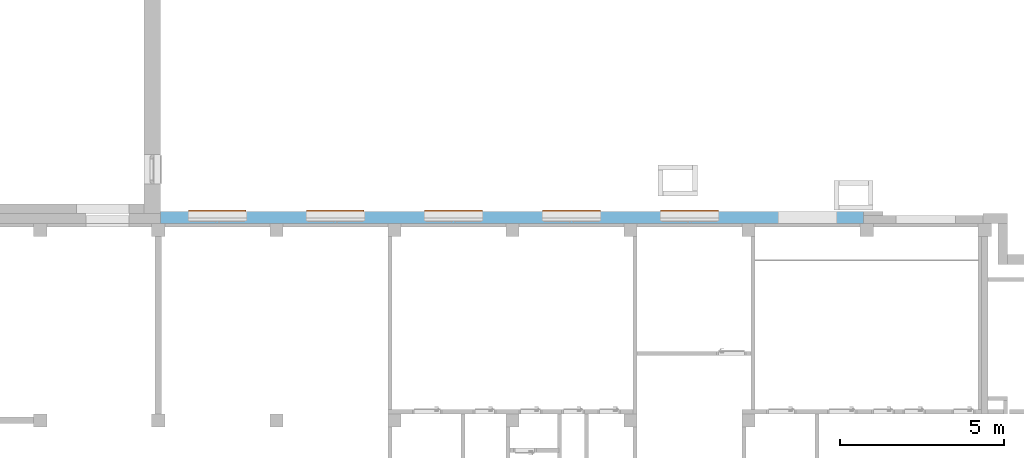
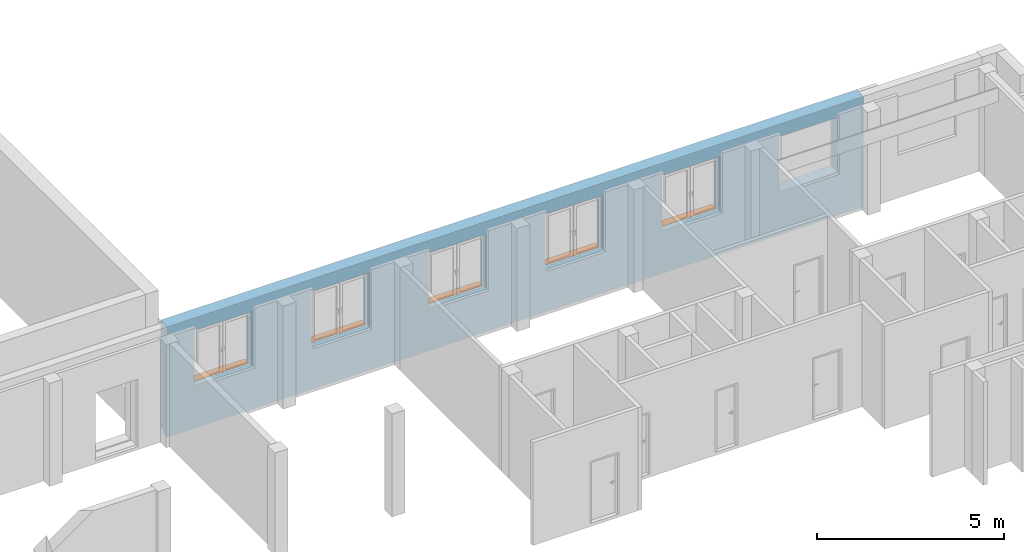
# One storey, part 28 of 37: 5 proxies, 6 openings, plus 1 element that does not belong to this part.
"""IFC4 building model written with IfcOpenShell, lengths in metres."""

from ifc_helpers import new_model, entity, si_unit, converted_unit, derived_unit, frame, frame_2d, origin, origin_with_axes, place, context, subcontext, project, spatial, polyline, rectangle, outline, extrude, clip, bounded_halfspace, faceted_brep, source, transform, mapped, material, layer, layer_set, layer_usage, element, fill, save


model = new_model("IFC4")

# Units and contexts
model_context = context("Model", 3, precision=1e-05, world=origin())
body_context = subcontext(model_context, "Body", "Model", "MODEL_VIEW")
ifc_project = project(units=[si_unit("LENGTHUNIT", "METRE"), si_unit("AREAUNIT", "SQUARE_METRE"), si_unit("VOLUMEUNIT", "CUBIC_METRE"), si_unit("MASSUNIT", "GRAM", prefix="KILO"), converted_unit("PLANEANGLEUNIT", "DEGREE", entity("IfcPlaneAngleMeasure", 0.0174532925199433), si_unit("PLANEANGLEUNIT", "RADIAN"), dimensions=[0, 0, 0, 0, 0, 0, 0]), derived_unit("THERMALTRANSMITTANCEUNIT", [(si_unit("POWERUNIT", "WATT"), 1), (si_unit("THERMODYNAMICTEMPERATUREUNIT", "KELVIN"), -1), (si_unit("LENGTHUNIT", "METRE"), -2)]), derived_unit("VOLUMETRICFLOWRATEUNIT", [(si_unit("LENGTHUNIT", "METRE"), 3), (converted_unit("TIMEUNIT", "hour", entity("IfcTimeMeasure", 3600.0), si_unit("TIMEUNIT", "SECOND"), dimensions=[0, 0, 1, 0, 0, 0, 0]), -1), (si_unit("LENGTHUNIT", "METRE"), -1)])], contexts=[model_context])

# Site, building, storey
site_placement = place(None, origin())
site = spatial("IfcSite", under=ifc_project, at=site_placement, Name="3. ASŘ", CompositionType="ELEMENT")
building_placement = place(site_placement, origin())
building = spatial("IfcBuilding", under=site, at=building_placement, Name="Pavilon B", CompositionType="ELEMENT")
storey_placement = place(building_placement, origin())
storey = spatial("IfcBuildingStorey", under=building, at=storey_placement, Name="Půdorys 1.NP", CompositionType="ELEMENT", Elevation=0.0)

# Wall, openings, proxies
ifc_material_1 = material(Name="ZELEZOBETONOVÁ KCE")
ifc_layer_1 = layer(ifc_material_1, 0.249999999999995)
ifc_material_2 = material(Name="MINERÁLNÍ VATA")
ifc_layer_2 = layer(ifc_material_2, 0.119999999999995)
ifc_layer_set = layer_set([ifc_layer_1, ifc_layer_2])
ifc_layer_usage = layer_usage(ifc_layer_set, "AXIS2", "POSITIVE", 0.0)
wall_placement = place(storey_placement, frame((6.67000000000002, -15.6, -0.1), z_axis=(0.0, 0.0, 1.0), x_axis=(1.0, -8.48805134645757e-17, 0.0)))
wall = element("IfcWall", 1, at=wall_placement, inside=storey, material=ifc_layer_usage, Name="ZELEZOBETONOVÁ KCE", context=body_context, shape_type="Clipping", body=[
    clip(extrude(rectangle(XDim=21.43, YDim=0.370000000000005, at=frame_2d((10.715, 0.185000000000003), x_axis=(1.0, 0.0))), origin_with_axes(), (0.0, 0.0, 1.0), 3.6), bounded_halfspace(frame((10.715, 0.310000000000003, 0.1), z_axis=(0.0, 0.0, 1.0), x_axis=(8.48805134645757e-17, -1.0, 0.0)), True, origin_with_axes(), polyline([(-3.1405789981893e-17, 0.37), (-2.12201283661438e-17, 0.249999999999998), (21.43, 0.250000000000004), (21.43, 0.370000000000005), (-3.1405789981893e-17, 0.37)]))),
])
opening_1_placement = place(wall_placement, frame((2.63, 0.370000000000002, 1.4), z_axis=(0.0, -1.0, 0.0), x_axis=(0.0, 0.0, 1.0)))
opening_1 = element("IfcOpeningElement", 2, at=opening_1_placement, cuts=wall, Name="Okenní otvor", ObjectType="Opening", context=body_context, shape_type="SweptSolid", body=[
    extrude(outline(polyline([(0.0, 1.8), (1.8, 1.8), (1.8, 0.0), (0.0, 0.0), (0.0, 1.8)])), origin_with_axes(), (0.0, 0.0, 1.0), 0.12),
    extrude(outline(polyline([(0.0, 1.8), (1.8, 1.8), (1.8, 0.0), (0.0, 0.0), (0.0, 1.8)])), frame((0.0, 0.0, 0.12), z_axis=(0.0, 0.0, 1.0), x_axis=(1.0, 0.0, 0.0)), (0.0, 0.0, 1.0), 0.25),
])
opening_2_placement = place(wall_placement, frame((6.23, 0.370000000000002, 1.4), z_axis=(0.0, -1.0, 0.0), x_axis=(0.0, 0.0, 1.0)))
opening_2 = element("IfcOpeningElement", 3, at=opening_2_placement, cuts=wall, Name="Okenní otvor", ObjectType="Opening", context=body_context, shape_type="SweptSolid", body=[
    extrude(outline(polyline([(0.0, 1.8), (1.8, 1.8), (1.8, 0.0), (0.0, 0.0), (0.0, 1.8)])), origin_with_axes(), (0.0, 0.0, 1.0), 0.12),
    extrude(outline(polyline([(0.0, 1.8), (1.8, 1.8), (1.8, 0.0), (0.0, 0.0), (0.0, 1.8)])), frame((0.0, 0.0, 0.12), z_axis=(0.0, 0.0, 1.0), x_axis=(1.0, 0.0, 0.0)), (0.0, 0.0, 1.0), 0.25),
])
opening_3_placement = place(wall_placement, frame((9.83, 0.370000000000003, 1.4), z_axis=(0.0, -1.0, 0.0), x_axis=(0.0, 0.0, 1.0)))
opening_3 = element("IfcOpeningElement", 4, at=opening_3_placement, cuts=wall, Name="Okenní otvor", ObjectType="Opening", context=body_context, shape_type="SweptSolid", body=[
    extrude(outline(polyline([(0.0, 1.8), (1.8, 1.8), (1.8, 0.0), (0.0, 0.0), (0.0, 1.8)])), origin_with_axes(), (0.0, 0.0, 1.0), 0.12),
    extrude(outline(polyline([(0.0, 1.8), (1.8, 1.8), (1.8, 0.0), (0.0, 0.0), (0.0, 1.8)])), frame((0.0, 0.0, 0.12), z_axis=(0.0, 0.0, 1.0), x_axis=(1.0, 0.0, 0.0)), (0.0, 0.0, 1.0), 0.25),
])
opening_4_placement = place(wall_placement, frame((13.43, 0.370000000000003, 1.4), z_axis=(0.0, -1.0, 0.0), x_axis=(0.0, 0.0, 1.0)))
opening_4 = element("IfcOpeningElement", 5, at=opening_4_placement, cuts=wall, Name="Okenní otvor", ObjectType="Opening", context=body_context, shape_type="SweptSolid", body=[
    extrude(outline(polyline([(0.0, 1.8), (1.8, 1.8), (1.8, 0.0), (0.0, 0.0), (0.0, 1.8)])), origin_with_axes(), (0.0, 0.0, 1.0), 0.12),
    extrude(outline(polyline([(0.0, 1.8), (1.8, 1.8), (1.8, 0.0), (0.0, 0.0), (0.0, 1.8)])), frame((0.0, 0.0, 0.12), z_axis=(0.0, 0.0, 1.0), x_axis=(1.0, 0.0, 0.0)), (0.0, 0.0, 1.0), 0.25),
])
opening_5_placement = place(wall_placement, frame((17.03, 0.370000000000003, 1.4), z_axis=(0.0, -1.0, 0.0), x_axis=(0.0, 0.0, 1.0)))
opening_5 = element("IfcOpeningElement", 6, at=opening_5_placement, cuts=wall, Name="Okenní otvor", ObjectType="Opening", context=body_context, shape_type="SweptSolid", body=[
    extrude(outline(polyline([(0.0, 1.8), (1.8, 1.8), (1.8, 0.0), (0.0, 0.0), (0.0, 1.8)])), origin_with_axes(), (0.0, 0.0, 1.0), 0.12),
    extrude(outline(polyline([(0.0, 1.8), (1.8, 1.8), (1.8, 0.0), (0.0, 0.0), (0.0, 1.8)])), frame((0.0, 0.0, 0.12), z_axis=(0.0, 0.0, 1.0), x_axis=(1.0, 0.0, 0.0)), (0.0, 0.0, 1.0), 0.25),
])
opening_6_placement = place(wall_placement, frame((20.63, 0.250000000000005, 1.4), z_axis=(0.0, -1.0, 0.0), x_axis=(0.0, 0.0, 1.0)))
element("IfcOpeningElement", 7, at=opening_6_placement, cuts=wall, Name="Okenní otvor", ObjectType="Opening", context=body_context, shape_type="SweptSolid", body=[
    extrude(outline(polyline([(0.0, 1.8), (1.8, 1.8), (1.8, 0.0), (0.0, 0.0), (0.0, 1.8)])), origin_with_axes(), (0.0, 0.0, 1.0), 0.250000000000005),
    extrude(outline(polyline([(0.0, 1.8), (1.8, 1.8), (1.8, 0.0), (0.0, 0.0), (0.0, 1.8)])), frame((0.0, 0.0, -0.12), z_axis=(0.0, 0.0, 1.0), x_axis=(1.0, 0.0, 0.0)), (0.0, 0.0, 1.0), 0.12),
])
ifc_material_3 = material(Name="PLECH")
shared_shape_1 = source(origin_with_axes(), body_context, "Body", "Brep", [
    faceted_brep([(0.04, 0.0, 0.0), (0.04, 0.2, 0.0), (0.04, 0.2, 0.005), (0.04, 0.0, 0.005), (1.76, 0.0, 0.0), (1.76, 0.0, 0.005), (1.76, 0.2, 0.005), (1.76, 0.2, 0.0), (0.02, 0.0, 0.0), (0.02, -0.035, 0.0), (1.78, -0.035, 0.0), (1.78, 0.0, 0.0), (1.78, 0.0, 0.005), (1.78, -0.04, 0.005), (0.02, -0.04, 0.005), (0.02, 0.0, 0.005), (0.02, -0.04, -0.025), (0.02, -0.035, -0.025), (1.78, -0.035, -0.025), (1.78, -0.04, -0.025)], [[[0, 1, 2, 3]], [[4, 5, 6, 7]], [[1, 0, 8, 9, 10, 11, 4, 7]], [[2, 1, 7, 6]], [[3, 2, 6, 5, 12, 13, 14, 15]], [[8, 15, 14, 16, 17, 9]], [[11, 10, 18, 19, 13, 12]], [[15, 8, 0, 3]], [[5, 4, 11, 12]], [[16, 14, 13, 19]], [[17, 16, 19, 18]], [[9, 17, 18, 10]]], orient=[[False], [False], [False], [False], [False], [False], [False], [False], [False], [False], [False], [False]]),
    faceted_brep([(0.02, 0.0, 0.0), (0.02, 0.2, 0.0), (0.02, 0.2, 0.005), (0.02, 0.0, 0.005), (0.04, 0.0, 0.0), (0.04, 0.0, 0.005), (0.04, 0.2, 0.005), (0.04, 0.2, 0.0)], [[[0, 1, 2, 3]], [[4, 5, 6, 7]], [[1, 0, 4, 7]], [[2, 1, 7, 6]], [[3, 2, 6, 5]], [[0, 3, 5, 4]]], orient=[[False], [False], [False], [False], [False], [False]]),
    faceted_brep([(1.76, 0.0, 0.0), (1.76, 0.2, 0.0), (1.76, 0.2, 0.005), (1.76, 0.0, 0.005), (1.78, 0.0, 0.0), (1.78, 0.0, 0.005), (1.78, 0.2, 0.005), (1.78, 0.2, 0.0)], [[[0, 1, 2, 3]], [[4, 5, 6, 7]], [[1, 0, 4, 7]], [[2, 1, 7, 6]], [[3, 2, 6, 5]], [[0, 3, 5, 4]]], orient=[[False], [False], [False], [False], [False], [False]]),
])
proxy_1_placement = place(opening_1_placement, frame((0.0, 0.0, 0.0), z_axis=(1.0, 0.0, 0.0), x_axis=(0.0, 1.0, 0.0)))
proxy_1 = element("IfcBuildingElementProxy", 8, at=proxy_1_placement, inside=storey, material=ifc_material_3, Name="Parapet vnější", context=body_context, shape_type="MappedRepresentation", body=[
    mapped(shared_shape_1, transform((0.0, 0.0, 0.0), x_axis=(1.0, 0.0, 0.0), y_axis=(0.0, 1.0, 0.0), z_axis=(0.0, 0.0, 1.0), scale=1.0)),
])
fill(opening_1, proxy_1)
ifc_material_4 = material(Name="PLECH")
shared_shape_2 = source(origin_with_axes(), body_context, "Body", "Brep", [
    faceted_brep([(0.04, 0.0, 0.0), (0.04, 0.2, 0.0), (0.04, 0.2, 0.005), (0.04, 0.0, 0.005), (1.76, 0.0, 0.0), (1.76, 0.0, 0.005), (1.76, 0.2, 0.005), (1.76, 0.2, 0.0), (0.02, 0.0, 0.0), (0.02, -0.035, 0.0), (1.78, -0.035, 0.0), (1.78, 0.0, 0.0), (1.78, 0.0, 0.005), (1.78, -0.04, 0.005), (0.02, -0.04, 0.005), (0.02, 0.0, 0.005), (0.02, -0.04, -0.025), (0.02, -0.035, -0.025), (1.78, -0.035, -0.025), (1.78, -0.04, -0.025)], [[[0, 1, 2, 3]], [[4, 5, 6, 7]], [[1, 0, 8, 9, 10, 11, 4, 7]], [[2, 1, 7, 6]], [[3, 2, 6, 5, 12, 13, 14, 15]], [[8, 15, 14, 16, 17, 9]], [[11, 10, 18, 19, 13, 12]], [[15, 8, 0, 3]], [[5, 4, 11, 12]], [[16, 14, 13, 19]], [[17, 16, 19, 18]], [[9, 17, 18, 10]]], orient=[[False], [False], [False], [False], [False], [False], [False], [False], [False], [False], [False], [False]]),
    faceted_brep([(0.02, 0.0, 0.0), (0.02, 0.2, 0.0), (0.02, 0.2, 0.005), (0.02, 0.0, 0.005), (0.04, 0.0, 0.0), (0.04, 0.0, 0.005), (0.04, 0.2, 0.005), (0.04, 0.2, 0.0)], [[[0, 1, 2, 3]], [[4, 5, 6, 7]], [[1, 0, 4, 7]], [[2, 1, 7, 6]], [[3, 2, 6, 5]], [[0, 3, 5, 4]]], orient=[[False], [False], [False], [False], [False], [False]]),
    faceted_brep([(1.76, 0.0, 0.0), (1.76, 0.2, 0.0), (1.76, 0.2, 0.005), (1.76, 0.0, 0.005), (1.78, 0.0, 0.0), (1.78, 0.0, 0.005), (1.78, 0.2, 0.005), (1.78, 0.2, 0.0)], [[[0, 1, 2, 3]], [[4, 5, 6, 7]], [[1, 0, 4, 7]], [[2, 1, 7, 6]], [[3, 2, 6, 5]], [[0, 3, 5, 4]]], orient=[[False], [False], [False], [False], [False], [False]]),
])
proxy_2_placement = place(opening_2_placement, frame((0.0, 0.0, 0.0), z_axis=(1.0, 0.0, 0.0), x_axis=(0.0, 1.0, 0.0)))
proxy_2 = element("IfcBuildingElementProxy", 9, at=proxy_2_placement, inside=storey, material=ifc_material_4, Name="Parapet vnější", context=body_context, shape_type="MappedRepresentation", body=[
    mapped(shared_shape_2, transform((0.0, 0.0, 0.0), x_axis=(1.0, 0.0, 0.0), y_axis=(0.0, 1.0, 0.0), z_axis=(0.0, 0.0, 1.0), scale=1.0)),
])
fill(opening_2, proxy_2)
ifc_material_5 = material(Name="PLECH")
shared_shape_3 = source(origin_with_axes(), body_context, "Body", "Brep", [
    faceted_brep([(0.04, 0.0, 0.0), (0.04, 0.2, 0.0), (0.04, 0.2, 0.005), (0.04, 0.0, 0.005), (1.76, 0.0, 0.0), (1.76, 0.0, 0.005), (1.76, 0.2, 0.005), (1.76, 0.2, 0.0), (0.02, 0.0, 0.0), (0.02, -0.035, 0.0), (1.78, -0.035, 0.0), (1.78, 0.0, 0.0), (1.78, 0.0, 0.005), (1.78, -0.04, 0.005), (0.02, -0.04, 0.005), (0.02, 0.0, 0.005), (0.02, -0.04, -0.025), (0.02, -0.035, -0.025), (1.78, -0.035, -0.025), (1.78, -0.04, -0.025)], [[[0, 1, 2, 3]], [[4, 5, 6, 7]], [[1, 0, 8, 9, 10, 11, 4, 7]], [[2, 1, 7, 6]], [[3, 2, 6, 5, 12, 13, 14, 15]], [[8, 15, 14, 16, 17, 9]], [[11, 10, 18, 19, 13, 12]], [[15, 8, 0, 3]], [[5, 4, 11, 12]], [[16, 14, 13, 19]], [[17, 16, 19, 18]], [[9, 17, 18, 10]]], orient=[[False], [False], [False], [False], [False], [False], [False], [False], [False], [False], [False], [False]]),
    faceted_brep([(0.02, 0.0, 0.0), (0.02, 0.2, 0.0), (0.02, 0.2, 0.005), (0.02, 0.0, 0.005), (0.04, 0.0, 0.0), (0.04, 0.0, 0.005), (0.04, 0.2, 0.005), (0.04, 0.2, 0.0)], [[[0, 1, 2, 3]], [[4, 5, 6, 7]], [[1, 0, 4, 7]], [[2, 1, 7, 6]], [[3, 2, 6, 5]], [[0, 3, 5, 4]]], orient=[[False], [False], [False], [False], [False], [False]]),
    faceted_brep([(1.76, 0.0, 0.0), (1.76, 0.2, 0.0), (1.76, 0.2, 0.005), (1.76, 0.0, 0.005), (1.78, 0.0, 0.0), (1.78, 0.0, 0.005), (1.78, 0.2, 0.005), (1.78, 0.2, 0.0)], [[[0, 1, 2, 3]], [[4, 5, 6, 7]], [[1, 0, 4, 7]], [[2, 1, 7, 6]], [[3, 2, 6, 5]], [[0, 3, 5, 4]]], orient=[[False], [False], [False], [False], [False], [False]]),
])
proxy_3_placement = place(opening_3_placement, frame((0.0, 0.0, 0.0), z_axis=(1.0, 0.0, 0.0), x_axis=(0.0, 1.0, 0.0)))
proxy_3 = element("IfcBuildingElementProxy", 10, at=proxy_3_placement, inside=storey, material=ifc_material_5, Name="Parapet vnější", context=body_context, shape_type="MappedRepresentation", body=[
    mapped(shared_shape_3, transform((0.0, 0.0, 0.0), x_axis=(1.0, 0.0, 0.0), y_axis=(0.0, 1.0, 0.0), z_axis=(0.0, 0.0, 1.0), scale=1.0)),
])
fill(opening_3, proxy_3)
ifc_material_6 = material(Name="PLECH")
shared_shape_4 = source(origin_with_axes(), body_context, "Body", "Brep", [
    faceted_brep([(0.04, 0.0, 0.0), (0.04, 0.2, 0.0), (0.04, 0.2, 0.005), (0.04, 0.0, 0.005), (1.76, 0.0, 0.0), (1.76, 0.0, 0.005), (1.76, 0.2, 0.005), (1.76, 0.2, 0.0), (0.02, 0.0, 0.0), (0.02, -0.035, 0.0), (1.78, -0.035, 0.0), (1.78, 0.0, 0.0), (1.78, 0.0, 0.005), (1.78, -0.04, 0.005), (0.02, -0.04, 0.005), (0.02, 0.0, 0.005), (0.02, -0.04, -0.025), (0.02, -0.035, -0.025), (1.78, -0.035, -0.025), (1.78, -0.04, -0.025)], [[[0, 1, 2, 3]], [[4, 5, 6, 7]], [[1, 0, 8, 9, 10, 11, 4, 7]], [[2, 1, 7, 6]], [[3, 2, 6, 5, 12, 13, 14, 15]], [[8, 15, 14, 16, 17, 9]], [[11, 10, 18, 19, 13, 12]], [[15, 8, 0, 3]], [[5, 4, 11, 12]], [[16, 14, 13, 19]], [[17, 16, 19, 18]], [[9, 17, 18, 10]]], orient=[[False], [False], [False], [False], [False], [False], [False], [False], [False], [False], [False], [False]]),
    faceted_brep([(0.02, 0.0, 0.0), (0.02, 0.2, 0.0), (0.02, 0.2, 0.005), (0.02, 0.0, 0.005), (0.04, 0.0, 0.0), (0.04, 0.0, 0.005), (0.04, 0.2, 0.005), (0.04, 0.2, 0.0)], [[[0, 1, 2, 3]], [[4, 5, 6, 7]], [[1, 0, 4, 7]], [[2, 1, 7, 6]], [[3, 2, 6, 5]], [[0, 3, 5, 4]]], orient=[[False], [False], [False], [False], [False], [False]]),
    faceted_brep([(1.76, 0.0, 0.0), (1.76, 0.2, 0.0), (1.76, 0.2, 0.005), (1.76, 0.0, 0.005), (1.78, 0.0, 0.0), (1.78, 0.0, 0.005), (1.78, 0.2, 0.005), (1.78, 0.2, 0.0)], [[[0, 1, 2, 3]], [[4, 5, 6, 7]], [[1, 0, 4, 7]], [[2, 1, 7, 6]], [[3, 2, 6, 5]], [[0, 3, 5, 4]]], orient=[[False], [False], [False], [False], [False], [False]]),
])
proxy_4_placement = place(opening_4_placement, frame((0.0, 0.0, 0.0), z_axis=(1.0, 0.0, 0.0), x_axis=(0.0, 1.0, 0.0)))
proxy_4 = element("IfcBuildingElementProxy", 11, at=proxy_4_placement, inside=storey, material=ifc_material_6, Name="Parapet vnější", context=body_context, shape_type="MappedRepresentation", body=[
    mapped(shared_shape_4, transform((0.0, 0.0, 0.0), x_axis=(1.0, 0.0, 0.0), y_axis=(0.0, 1.0, 0.0), z_axis=(0.0, 0.0, 1.0), scale=1.0)),
])
fill(opening_4, proxy_4)
ifc_material_7 = material(Name="PLECH")
shared_shape_5 = source(origin_with_axes(), body_context, "Body", "Brep", [
    faceted_brep([(0.0399999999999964, 0.0, 0.0), (0.0399999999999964, 0.2, 0.0), (0.0399999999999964, 0.2, 0.005), (0.0399999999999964, 0.0, 0.005), (1.76, 0.0, 0.0), (1.76, 0.0, 0.005), (1.76, 0.2, 0.005), (1.76, 0.2, 0.0), (0.0199999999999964, 0.0, 0.0), (0.0199999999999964, -0.035, 0.0), (1.78, -0.035, 0.0), (1.78, 0.0, 0.0), (1.78, 0.0, 0.005), (1.78, -0.04, 0.005), (0.0199999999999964, -0.04, 0.005), (0.0199999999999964, 0.0, 0.005), (0.0199999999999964, -0.04, -0.025), (0.0199999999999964, -0.035, -0.025), (1.78, -0.035, -0.025), (1.78, -0.04, -0.025)], [[[0, 1, 2, 3]], [[4, 5, 6, 7]], [[1, 0, 8, 9, 10, 11, 4, 7]], [[2, 1, 7, 6]], [[3, 2, 6, 5, 12, 13, 14, 15]], [[8, 15, 14, 16, 17, 9]], [[11, 10, 18, 19, 13, 12]], [[15, 8, 0, 3]], [[5, 4, 11, 12]], [[16, 14, 13, 19]], [[17, 16, 19, 18]], [[9, 17, 18, 10]]], orient=[[False], [False], [False], [False], [False], [False], [False], [False], [False], [False], [False], [False]]),
    faceted_brep([(0.0199999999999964, 0.0, 0.0), (0.0199999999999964, 0.2, 0.0), (0.0199999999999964, 0.2, 0.005), (0.0199999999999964, 0.0, 0.005), (0.0399999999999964, 0.0, 0.0), (0.0399999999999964, 0.0, 0.005), (0.0399999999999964, 0.2, 0.005), (0.0399999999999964, 0.2, 0.0)], [[[0, 1, 2, 3]], [[4, 5, 6, 7]], [[1, 0, 4, 7]], [[2, 1, 7, 6]], [[3, 2, 6, 5]], [[0, 3, 5, 4]]], orient=[[False], [False], [False], [False], [False], [False]]),
    faceted_brep([(1.76, 0.0, 0.0), (1.76, 0.2, 0.0), (1.76, 0.2, 0.005), (1.76, 0.0, 0.005), (1.78, 0.0, 0.0), (1.78, 0.0, 0.005), (1.78, 0.2, 0.005), (1.78, 0.2, 0.0)], [[[0, 1, 2, 3]], [[4, 5, 6, 7]], [[1, 0, 4, 7]], [[2, 1, 7, 6]], [[3, 2, 6, 5]], [[0, 3, 5, 4]]], orient=[[False], [False], [False], [False], [False], [False]]),
])
proxy_5_placement = place(opening_5_placement, frame((0.0, 0.0, 0.0), z_axis=(1.0, 0.0, 0.0), x_axis=(0.0, 1.0, 0.0)))
proxy_5 = element("IfcBuildingElementProxy", 12, at=proxy_5_placement, inside=storey, material=ifc_material_7, Name="Parapet vnější", context=body_context, shape_type="MappedRepresentation", body=[
    mapped(shared_shape_5, transform((0.0, 0.0, 0.0), x_axis=(1.0, 0.0, 0.0), y_axis=(0.0, 1.0, 0.0), z_axis=(0.0, 0.0, 1.0), scale=1.0)),
])
fill(opening_5, proxy_5)

save(model, "model.ifc")
